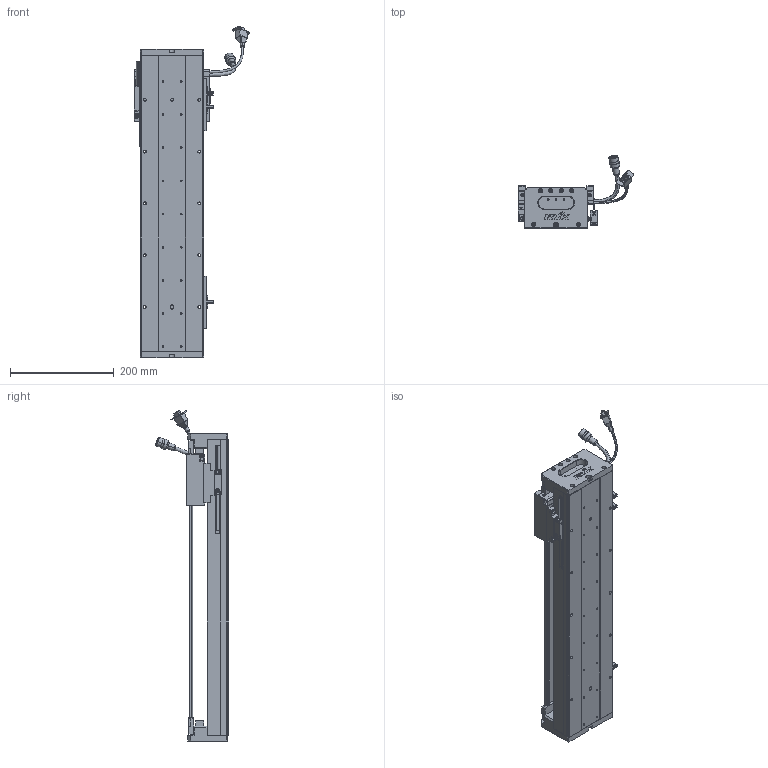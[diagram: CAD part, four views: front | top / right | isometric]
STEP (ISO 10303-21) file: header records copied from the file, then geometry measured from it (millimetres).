
FILE_DESCRIPTION (( 'STEP AP203' ), '1' );
FILE_NAME ('Z1-RY120D-1-L500-B-K.SLDASM_0400.step', '2021-05-17T03:44:46', ( '盈信电脑' ), ( '东莞市道滘镇水果街19号' ), 'SwSTEP 2.0', 'SolidWorks 2016', '' );
FILE_SCHEMA (( 'CONFIG_CONTROL_DESIGN' ));
Length unit declared in the file: millimetre
Products named in the file (37): 140雄赽晤鎢ん堤盄; SCREW-M1.7; 140蚥薯蝶輸; COVER; Z1-RY120D-1-L500-B-K.SLDASM_0400; 榋妏寠巭燃_暯_M2_2; HARNESS; SCREW-M1.6-2; SCREW-M1.6-3; Z1-RY120-L500詩湍100mm遵_0400; SCALE-Part-1; HARNESS-Part-2; SCREW-M1.6-1; Z-RY120D詩湍奻揤裔; PBU_SHEET; RY100FB-遵嫖萇覜茼え; HARNESS-Part-1; 672嫖萇羲壽假蚾釱; LABEL; SCALE; Z1-RY120-500-倰第菁釱_0400; 120-Z-臏賑輸盄裔(21遴); HOLDER0; SCREW-M1.7-1; Z1-RY120铝滑块（21款）; 覜茼ん672; 080黍杅芛假蚾釱21遴; Z-RY120D詩湍狟揤裔; SEAL-Part-1; PSLH080_PSLF2; COVER-Part-1; SEAL; LABEL-Part-1; SHIELDPLATE; SCALE-Part-2; SCREW-M1.6; Z-120詩湍傷裔啣
Assembly tree (43 placements, depth 4):
  Z1-RY120D-1-L500-B-K.SLDASM_0400
    Z1-RY120-500-倰第菁釱_0400
    覜茼ん672  x3
    672嫖萇羲壽假蚾釱  x2
    Z1-RY120铝滑块（21款）
    PSLH080_PSLF2
      SCALE
        SCALE-Part-1
        SCALE-Part-2
      HARNESS
        HARNESS-Part-1
        HARNESS-Part-2
      LABEL
        LABEL-Part-1
      COVER
        COVER-Part-1
      SEAL
        SEAL-Part-1
      榋妏寠巭燃_暯_M2_2
      SHIELDPLATE
      SCREW-M1.7
      SCREW-M1.7-1
      PBU_SHEET
      SCREW-M1.6
      SCREW-M1.6-1
      SCREW-M1.6-2
      SCREW-M1.6-3
      HOLDER0
    080黍杅芛假蚾釱21遴
    120-Z-臏賑輸盄裔(21遴)
    140雄赽晤鎢ん堤盄
    140蚥薯蝶輸  x2
    RY100FB-遵嫖萇覜茼え
    Z-120詩湍傷裔啣  x2
    Z-RY120D詩湍奻揤裔  x2
    Z-RY120D詩湍狟揤裔  x2
    Z1-RY120-L500詩湍100mm遵_0400
Bounding box: 222.88 x 140.94 x 639 mm (x, y, z)
Volume: 1846772.4 mm3; surface area: 634172 mm2
Topology: 38 solids, 38 shells, 2461 faces, 6500 edges, 4110 vertices
Faces by surface type: plane 1071, cylinder 1034, cone 234, torus 69, bspline 53
Entity records: 69971 total; most frequent: CARTESIAN_POINT 17356, DIRECTION 10180, ORIENTED_EDGE 10056, EDGE_CURVE 5028, AXIS2_PLACEMENT_3D 3684, VERTEX_POINT 3230, LINE 2812, VECTOR 2812
